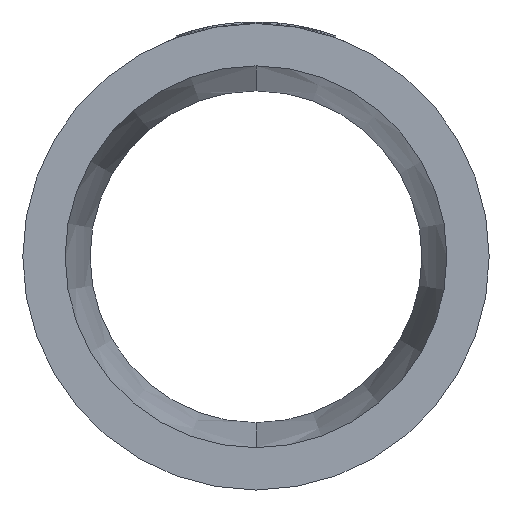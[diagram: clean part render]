
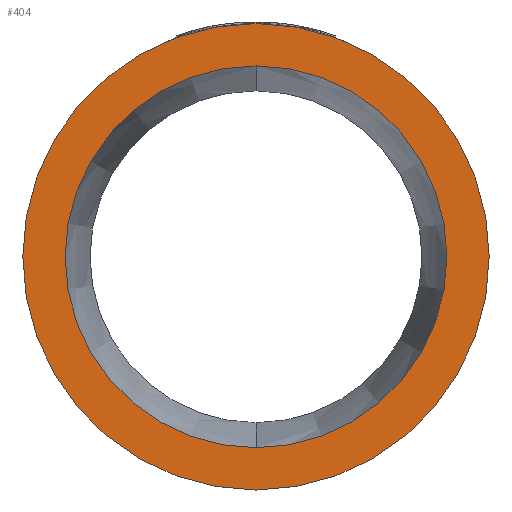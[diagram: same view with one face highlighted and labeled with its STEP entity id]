
A CAD part, left-side view. The second image highlights one B-rep face of the part: STEP entity #404.
In plain terms, the highlighted planar face has unit normal (-1, 0, 0).
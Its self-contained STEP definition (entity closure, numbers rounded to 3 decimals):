
#77 = EDGE_CURVE ( 'NONE', #3346, #1993, #3157, .T. ) ;
#261 = DIRECTION ( 'NONE',  ( 0., 0., 1. ) ) ;
#276 = DIRECTION ( 'NONE',  ( -1., 0., 0. ) ) ;
#297 = CARTESIAN_POINT ( 'NONE',  ( 0., 0., 0. ) ) ;
#404 = ADVANCED_FACE ( 'NONE', ( #651, #1088 ), #3052, .F. ) ;
#416 = ORIENTED_EDGE ( 'NONE', *, *, #1333, .F. ) ;
#459 = CARTESIAN_POINT ( 'NONE',  ( 0., 0., -57.3 ) ) ;
#511 = DIRECTION ( 'NONE',  ( 0., 0., 1. ) ) ;
#518 = CARTESIAN_POINT ( 'NONE',  ( 0., 0., 0. ) ) ;
#521 = DIRECTION ( 'NONE',  ( -1., 0., 0. ) ) ;
#530 = CARTESIAN_POINT ( 'NONE',  ( 0., 0., 0. ) ) ;
#651 = FACE_BOUND ( 'NONE', #3421, .T. ) ;
#842 = ORIENTED_EDGE ( 'NONE', *, *, #1231, .F. ) ;
#1088 = FACE_OUTER_BOUND ( 'NONE', #2998, .T. ) ;
#1127 = CIRCLE ( 'NONE', #1639, 70. ) ;
#1224 = ORIENTED_EDGE ( 'NONE', *, *, #77, .T. ) ;
#1231 = EDGE_CURVE ( 'NONE', #1313, #3410, #2236, .T. ) ;
#1313 = VERTEX_POINT ( 'NONE', #459 ) ;
#1333 = EDGE_CURVE ( 'NONE', #3410, #1313, #2159, .T. ) ;
#1399 = EDGE_CURVE ( 'NONE', #1993, #3346, #1127, .T. ) ;
#1639 = AXIS2_PLACEMENT_3D ( 'NONE', #518, #2234, #3082 ) ;
#1673 = DIRECTION ( 'NONE',  ( 0., 0., 1. ) ) ;
#1679 = DIRECTION ( 'NONE',  ( -1., 0., 0. ) ) ;
#1685 = CARTESIAN_POINT ( 'NONE',  ( 0., 0., 0. ) ) ;
#1708 = AXIS2_PLACEMENT_3D ( 'NONE', #297, #276, #261 ) ;
#1753 = AXIS2_PLACEMENT_3D ( 'NONE', #530, #521, #511 ) ;
#1897 = CARTESIAN_POINT ( 'NONE',  ( 0., 0., 57.3 ) ) ;
#1993 = VERTEX_POINT ( 'NONE', #2988 ) ;
#2159 = CIRCLE ( 'NONE', #1708, 57.3 ) ;
#2189 = CARTESIAN_POINT ( 'NONE',  ( 0., 0., 70. ) ) ;
#2234 = DIRECTION ( 'NONE',  ( -1., 0., 0. ) ) ;
#2236 = CIRCLE ( 'NONE', #1753, 57.3 ) ;
#2796 = ORIENTED_EDGE ( 'NONE', *, *, #1399, .T. ) ;
#2814 = DIRECTION ( 'NONE',  ( 0., 0., -1. ) ) ;
#2826 = DIRECTION ( 'NONE',  ( 1., 0., 0. ) ) ;
#2849 = CARTESIAN_POINT ( 'NONE',  ( 0., 57.3, 0. ) ) ;
#2988 = CARTESIAN_POINT ( 'NONE',  ( 0., 0., -70. ) ) ;
#2998 = EDGE_LOOP ( 'NONE', ( #1224, #2796 ) ) ;
#3052 = PLANE ( 'NONE',  #3108 ) ;
#3082 = DIRECTION ( 'NONE',  ( 0., 0., 1. ) ) ;
#3108 = AXIS2_PLACEMENT_3D ( 'NONE', #2849, #2826, #2814 ) ;
#3157 = CIRCLE ( 'NONE', #3194, 70. ) ;
#3194 = AXIS2_PLACEMENT_3D ( 'NONE', #1685, #1679, #1673 ) ;
#3346 = VERTEX_POINT ( 'NONE', #2189 ) ;
#3410 = VERTEX_POINT ( 'NONE', #1897 ) ;
#3421 = EDGE_LOOP ( 'NONE', ( #416, #842 ) ) ;
